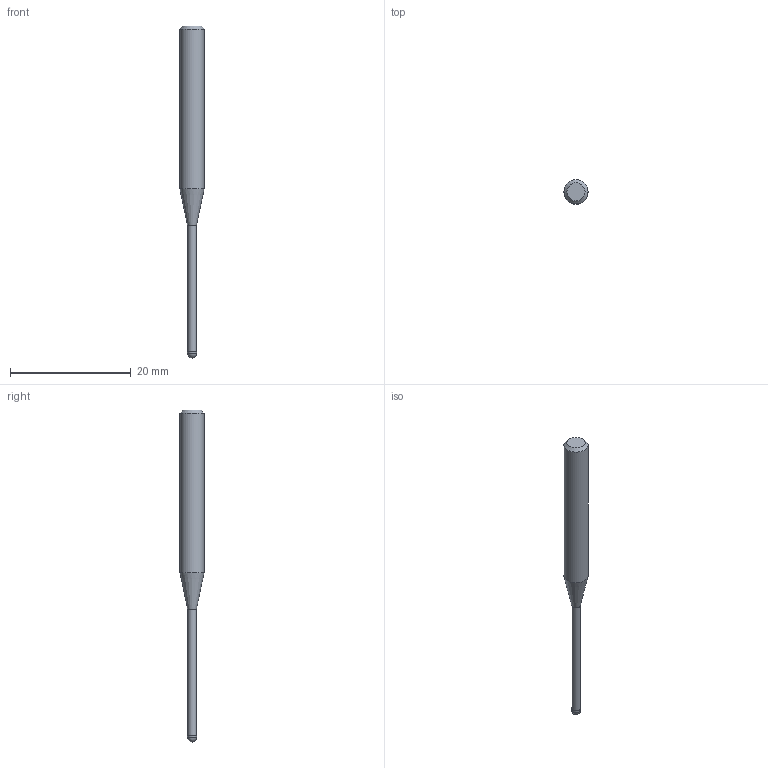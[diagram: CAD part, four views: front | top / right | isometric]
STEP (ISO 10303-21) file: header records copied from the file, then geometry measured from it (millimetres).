
FILE_DESCRIPTION((''),'2;1');
FILE_NAME('C:\Users\nsx150\AppData\Local\Temp\Mastercam 2021\3SYKECWX22\TEMP.step','2021-04-22T10:03:34',(''),(''),'STEP Write','Mastercam 2021 ... CNC Software, Inc.','');
FILE_SCHEMA(('AUTOMOTIVE_DESIGN'));
Length unit declared in the file: millimetre
Products named in the file (1): None
Bounding box: 4 x 4 x 55 mm (x, y, z)
Volume: 411.4 mm3; surface area: 504.2 mm2
Topology: 2 solids, 2 shells, 9 faces, 14 edges, 8 vertices
Faces by surface type: plane 3, cylinder 3, cone 2, sphere 1
Full cylindrical faces by diameter (mm): 1.45 x1, 1.5 x1, 4 x1
Entity records: 211 total; most frequent: DIRECTION 36, CARTESIAN_POINT 25, AXIS2_PLACEMENT_3D 18, ORIENTED_EDGE 14, EDGE_LOOP 14, STYLED_ITEM 12, ADVANCED_FACE 9, FACE_BOUND 8
